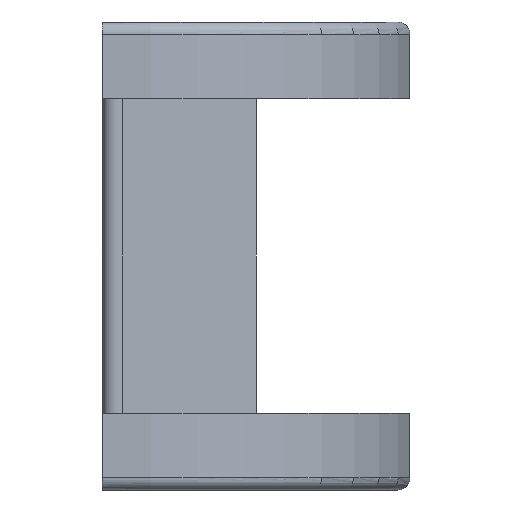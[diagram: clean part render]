
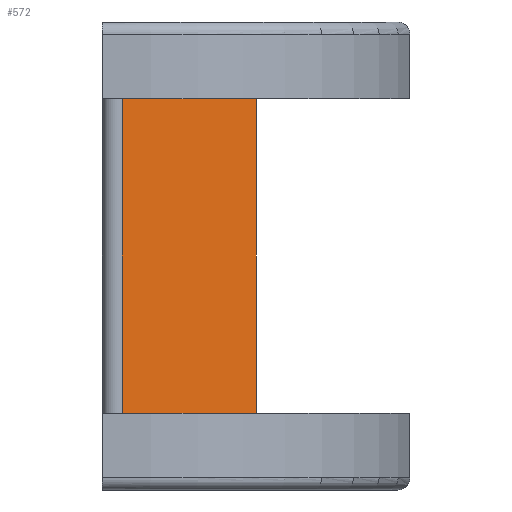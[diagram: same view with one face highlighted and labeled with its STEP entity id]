
A CAD part, front view. The second image highlights one B-rep face of the part: STEP entity #572.
In plain terms, the highlighted planar face has unit normal (0.648, -0.762, 0).
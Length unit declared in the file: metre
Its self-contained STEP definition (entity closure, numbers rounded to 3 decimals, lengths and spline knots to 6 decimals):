
#55=LINE('',#914,#105);
#66=LINE('',#943,#116);
#67=LINE('',#946,#117);
#68=LINE('',#947,#118);
#105=VECTOR('',#727,1.);
#116=VECTOR('',#754,1.);
#117=VECTOR('',#755,1.);
#118=VECTOR('',#756,1.);
#196=ORIENTED_EDGE('',*,*,#339,.F.);
#197=ORIENTED_EDGE('',*,*,#340,.T.);
#198=ORIENTED_EDGE('',*,*,#324,.T.);
#199=ORIENTED_EDGE('',*,*,#341,.F.);
#324=EDGE_CURVE('',#399,#398,#55,.T.);
#339=EDGE_CURVE('',#409,#410,#66,.T.);
#340=EDGE_CURVE('',#409,#399,#67,.T.);
#341=EDGE_CURVE('',#410,#398,#68,.T.);
#398=VERTEX_POINT('',#913);
#399=VERTEX_POINT('',#915);
#409=VERTEX_POINT('',#944);
#410=VERTEX_POINT('',#945);
#467=EDGE_LOOP('',(#196,#197,#198,#199));
#513=FACE_BOUND('',#467,.T.);
#554=PLANE('',#631);
#572=ADVANCED_FACE('',(#513),#554,.F.);
#631=AXIS2_PLACEMENT_3D('',#942,#752,#753);
#727=DIRECTION('',(0.762,0.648,0.));
#752=DIRECTION('',(-0.648,0.762,0.));
#753=DIRECTION('',(-0.762,-0.648,0.));
#754=DIRECTION('',(0.762,0.648,0.));
#755=DIRECTION('',(0.,0.,-1.));
#756=DIRECTION('',(0.,0.,-1.));
#913=CARTESIAN_POINT('',(0.,-0.067469,0.));
#914=CARTESIAN_POINT('',(-0.007938,-0.074216,0.));
#915=CARTESIAN_POINT('',(-0.013782,-0.079184,0.));
#942=CARTESIAN_POINT('',(-0.007938,-0.074216,0.032388));
#943=CARTESIAN_POINT('',(-0.007938,-0.074216,0.032388));
#944=CARTESIAN_POINT('',(-0.013782,-0.079184,0.032388));
#945=CARTESIAN_POINT('',(0.,-0.067469,0.032388));
#946=CARTESIAN_POINT('',(-0.013782,-0.079184,0.032388));
#947=CARTESIAN_POINT('',(0.,-0.067469,0.032388));
